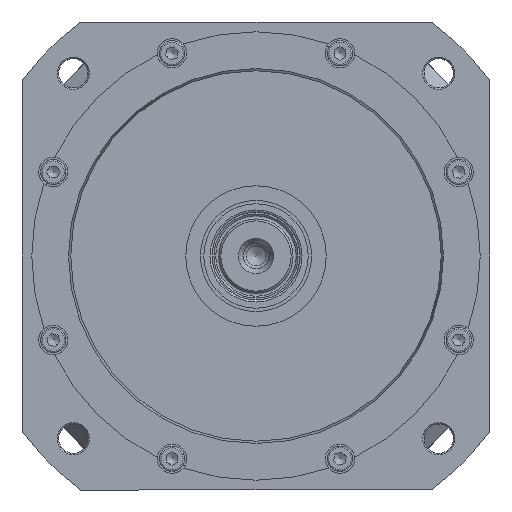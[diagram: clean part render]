
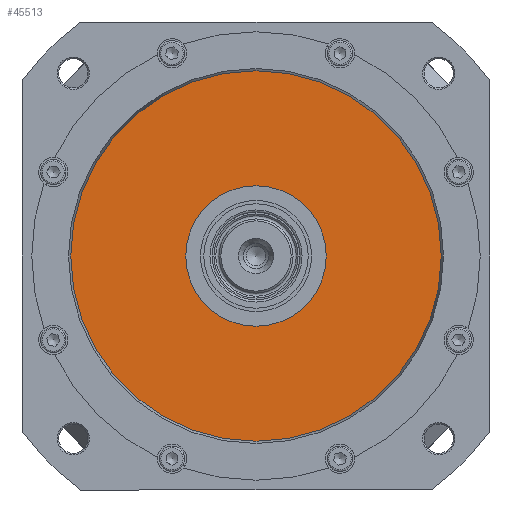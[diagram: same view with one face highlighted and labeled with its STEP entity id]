
A CAD part, left-side view. The second image highlights one B-rep face of the part: STEP entity #45513.
In plain terms, the highlighted planar face has unit normal (-1, 0, 0).
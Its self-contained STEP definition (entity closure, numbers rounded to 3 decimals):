
#10840=FACE_BOUND('',#14920,.T.);
#12120=FACE_OUTER_BOUND('',#14919,.T.);
#14919=EDGE_LOOP('',(#35344));
#14920=EDGE_LOOP('',(#35345));
#17817=CIRCLE('',#49623,95.);
#17819=CIRCLE('',#49626,36.);
#21067=VERTEX_POINT('',#73638);
#21069=VERTEX_POINT('',#73644);
#26277=EDGE_CURVE('',#21067,#21067,#17817,.T.);
#26280=EDGE_CURVE('',#21069,#21069,#17819,.T.);
#35344=ORIENTED_EDGE('',*,*,#26277,.F.);
#35345=ORIENTED_EDGE('',*,*,#26280,.T.);
#43907=PLANE('',#49625);
#45513=ADVANCED_FACE('',(#12120,#10840),#43907,.T.);
#49623=AXIS2_PLACEMENT_3D('',#73639,#58260,#58261);
#49625=AXIS2_PLACEMENT_3D('',#73643,#58265,#58266);
#49626=AXIS2_PLACEMENT_3D('',#73645,#58267,#58268);
#58260=DIRECTION('center_axis',(1.,0.,0.));
#58261=DIRECTION('ref_axis',(0.,1.,0.));
#58265=DIRECTION('center_axis',(-1.,0.,0.));
#58266=DIRECTION('ref_axis',(0.,-1.,0.));
#58267=DIRECTION('center_axis',(1.,0.,0.));
#58268=DIRECTION('ref_axis',(0.,1.,0.));
#73638=CARTESIAN_POINT('',(-251.7,0.,-95.));
#73639=CARTESIAN_POINT('Origin',(-251.7,0.,0.));
#73643=CARTESIAN_POINT('Origin',(-251.7,0.,95.));
#73644=CARTESIAN_POINT('',(-251.7,0.,-36.));
#73645=CARTESIAN_POINT('Origin',(-251.7,0.,0.));
